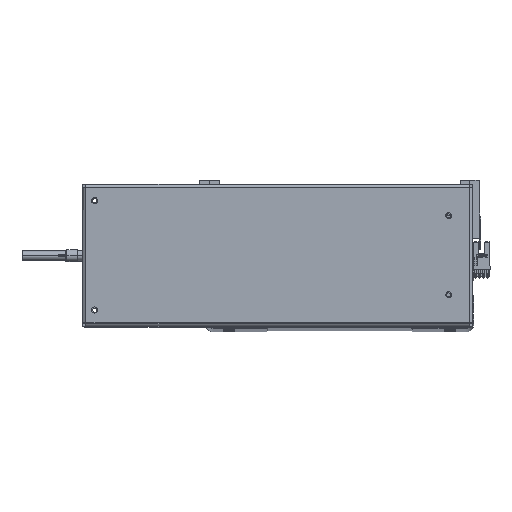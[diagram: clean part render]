
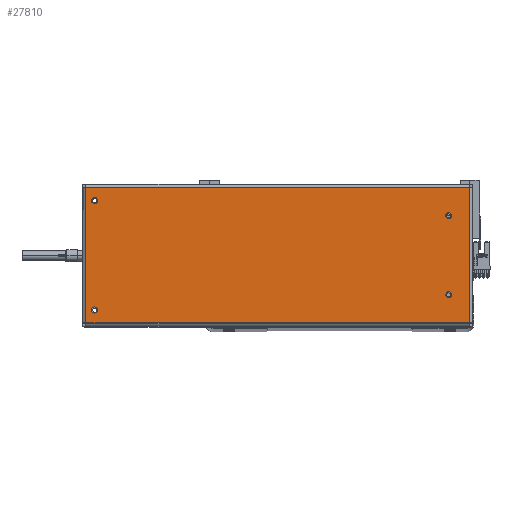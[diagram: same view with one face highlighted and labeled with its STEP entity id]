
A CAD part, top view. The second image highlights one B-rep face of the part: STEP entity #27810.
In plain terms, the highlighted planar face has unit normal (0, 0, 1).
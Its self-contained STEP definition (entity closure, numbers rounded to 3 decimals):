
#193 = VERTEX_POINT ( 'NONE', #32422 ) ;
#414 = EDGE_LOOP ( 'NONE', ( #36072, #34740 ) ) ;
#952 = CARTESIAN_POINT ( 'NONE',  ( -138., 32.5, 0. ) ) ;
#990 = ORIENTED_EDGE ( 'NONE', *, *, #28389, .F. ) ;
#1583 = DIRECTION ( 'NONE',  ( 0., 0., 1. ) ) ;
#1990 = AXIS2_PLACEMENT_3D ( 'NONE', #31674, #22230, #25608 ) ;
#2096 = EDGE_CURVE ( 'NONE', #24241, #16387, #38442, .T. ) ;
#2321 = LINE ( 'NONE', #5096, #9827 ) ;
#3168 = FACE_OUTER_BOUND ( 'NONE', #17974, .T. ) ;
#3536 = EDGE_LOOP ( 'NONE', ( #33889, #3919 ) ) ;
#3684 = DIRECTION ( 'NONE',  ( 0., 0., 1. ) ) ;
#3919 = ORIENTED_EDGE ( 'NONE', *, *, #28249, .F. ) ;
#3955 = VERTEX_POINT ( 'NONE', #27144 ) ;
#4523 = DIRECTION ( 'NONE',  ( 1., 0., 0. ) ) ;
#5096 = CARTESIAN_POINT ( 'NONE',  ( -157.6, 55.6, 0. ) ) ;
#5843 = VECTOR ( 'NONE', #16656, 1000. ) ;
#5875 = CARTESIAN_POINT ( 'NONE',  ( -138., -32.5, 0. ) ) ;
#6216 = EDGE_CURVE ( 'NONE', #19238, #193, #37953, .T. ) ;
#6271 = EDGE_CURVE ( 'NONE', #10355, #37986, #34816, .T. ) ;
#6510 = CARTESIAN_POINT ( 'NONE',  ( -157.7, -55.6, 0. ) ) ;
#6780 = AXIS2_PLACEMENT_3D ( 'NONE', #26599, #3684, #7325 ) ;
#7058 = ORIENTED_EDGE ( 'NONE', *, *, #38989, .F. ) ;
#7115 = AXIS2_PLACEMENT_3D ( 'NONE', #25947, #19063, #29217 ) ;
#7325 = DIRECTION ( 'NONE',  ( 1., 0., 0. ) ) ;
#7617 = EDGE_CURVE ( 'NONE', #38571, #3955, #21918, .T. ) ;
#8294 = EDGE_CURVE ( 'NONE', #25512, #23766, #39051, .T. ) ;
#8907 = EDGE_CURVE ( 'NONE', #15988, #38483, #12254, .T. ) ;
#9787 = AXIS2_PLACEMENT_3D ( 'NONE', #19681, #38893, #26449 ) ;
#9827 = VECTOR ( 'NONE', #11031, 1000. ) ;
#10229 = CARTESIAN_POINT ( 'NONE',  ( 150.5, 45., 0. ) ) ;
#10355 = VERTEX_POINT ( 'NONE', #952 ) ;
#10707 = FACE_BOUND ( 'NONE', #29589, .T. ) ;
#10876 = CARTESIAN_POINT ( 'NONE',  ( -157.6, 55.6, 0. ) ) ;
#11008 = ORIENTED_EDGE ( 'NONE', *, *, #24792, .T. ) ;
#11031 = DIRECTION ( 'NONE',  ( 0., -1., 0. ) ) ;
#11105 = CARTESIAN_POINT ( 'NONE',  ( 153., 45., 0. ) ) ;
#11705 = FACE_BOUND ( 'NONE', #18085, .T. ) ;
#11911 = AXIS2_PLACEMENT_3D ( 'NONE', #17322, #1583, #4523 ) ;
#12254 = LINE ( 'NONE', #32717, #17806 ) ;
#13863 = CARTESIAN_POINT ( 'NONE',  ( 153., -45., 0. ) ) ;
#13958 = ORIENTED_EDGE ( 'NONE', *, *, #8907, .T. ) ;
#15737 = FACE_BOUND ( 'NONE', #414, .T. ) ;
#15988 = VERTEX_POINT ( 'NONE', #31680 ) ;
#16247 = ORIENTED_EDGE ( 'NONE', *, *, #8294, .F. ) ;
#16387 = VERTEX_POINT ( 'NONE', #26980 ) ;
#16656 = DIRECTION ( 'NONE',  ( 1., 0., 0. ) ) ;
#16726 = CARTESIAN_POINT ( 'NONE',  ( 150.5, -45., 0. ) ) ;
#16733 = CIRCLE ( 'NONE', #26211, 2.5 ) ;
#16952 = DIRECTION ( 'NONE',  ( 1., 0., 0. ) ) ;
#17295 = DIRECTION ( 'NONE',  ( 0., 0., 1. ) ) ;
#17322 = CARTESIAN_POINT ( 'NONE',  ( -140.5, 32.5, 0. ) ) ;
#17806 = VECTOR ( 'NONE', #23582, 1000. ) ;
#17974 = EDGE_LOOP ( 'NONE', ( #11008, #31338, #32302, #13958 ) ) ;
#18085 = EDGE_LOOP ( 'NONE', ( #16247, #990 ) ) ;
#19063 = DIRECTION ( 'NONE',  ( 0., 0., 1. ) ) ;
#19098 = DIRECTION ( 'NONE',  ( 0., 0., 1. ) ) ;
#19238 = VERTEX_POINT ( 'NONE', #5875 ) ;
#19348 = ORIENTED_EDGE ( 'NONE', *, *, #6216, .F. ) ;
#19681 = CARTESIAN_POINT ( 'NONE',  ( 150.5, 45., 0. ) ) ;
#19748 = CIRCLE ( 'NONE', #32684, 2.5 ) ;
#20687 = CARTESIAN_POINT ( 'NONE',  ( -157.6, -55.6, 0. ) ) ;
#21598 = CARTESIAN_POINT ( 'NONE',  ( 148., 45., 0. ) ) ;
#21722 = CIRCLE ( 'NONE', #7115, 2.5 ) ;
#21918 = LINE ( 'NONE', #6510, #5843 ) ;
#22230 = DIRECTION ( 'NONE',  ( 0., 0., -1. ) ) ;
#23468 = DIRECTION ( 'NONE',  ( 0., 0., 1. ) ) ;
#23582 = DIRECTION ( 'NONE',  ( -1., 0., 0. ) ) ;
#23766 = VERTEX_POINT ( 'NONE', #21598 ) ;
#24241 = VERTEX_POINT ( 'NONE', #13863 ) ;
#24792 = EDGE_CURVE ( 'NONE', #38483, #38571, #2321, .T. ) ;
#25512 = VERTEX_POINT ( 'NONE', #11105 ) ;
#25608 = DIRECTION ( 'NONE',  ( -1., 0., 0. ) ) ;
#25707 = DIRECTION ( 'NONE',  ( 1., 0., 0. ) ) ;
#25947 = CARTESIAN_POINT ( 'NONE',  ( -140.5, -32.5, 0. ) ) ;
#26211 = AXIS2_PLACEMENT_3D ( 'NONE', #10229, #23468, #39011 ) ;
#26449 = DIRECTION ( 'NONE',  ( 1., 0., 0. ) ) ;
#26599 = CARTESIAN_POINT ( 'NONE',  ( -140.5, -32.5, 0. ) ) ;
#26980 = CARTESIAN_POINT ( 'NONE',  ( 148., -45., 0. ) ) ;
#27144 = CARTESIAN_POINT ( 'NONE',  ( 157.6, -55.6, 0. ) ) ;
#27785 = LINE ( 'NONE', #28724, #37865 ) ;
#27810 = ADVANCED_FACE ( 'NONE', ( #10707, #40496, #15737, #11705, #3168 ), #41451, .F. ) ;
#28249 = EDGE_CURVE ( 'NONE', #37986, #10355, #19748, .T. ) ;
#28389 = EDGE_CURVE ( 'NONE', #23766, #25512, #16733, .T. ) ;
#28724 = CARTESIAN_POINT ( 'NONE',  ( 157.6, -55.6, 0. ) ) ;
#28966 = CARTESIAN_POINT ( 'NONE',  ( -140.5, 32.5, 0. ) ) ;
#29217 = DIRECTION ( 'NONE',  ( 1., 0., 0. ) ) ;
#29589 = EDGE_LOOP ( 'NONE', ( #19348, #7058 ) ) ;
#29612 = CARTESIAN_POINT ( 'NONE',  ( 150.5, -45., 0. ) ) ;
#29747 = DIRECTION ( 'NONE',  ( 0., 0., 1. ) ) ;
#29871 = AXIS2_PLACEMENT_3D ( 'NONE', #16726, #17295, #32899 ) ;
#31338 = ORIENTED_EDGE ( 'NONE', *, *, #7617, .T. ) ;
#31674 = CARTESIAN_POINT ( 'NONE',  ( 157.7, 58.5, 0. ) ) ;
#31680 = CARTESIAN_POINT ( 'NONE',  ( 157.6, 55.6, 0. ) ) ;
#32302 = ORIENTED_EDGE ( 'NONE', *, *, #39345, .T. ) ;
#32422 = CARTESIAN_POINT ( 'NONE',  ( -143., -32.5, 0. ) ) ;
#32684 = AXIS2_PLACEMENT_3D ( 'NONE', #28966, #19098, #25707 ) ;
#32717 = CARTESIAN_POINT ( 'NONE',  ( 157.7, 55.6, 0. ) ) ;
#32899 = DIRECTION ( 'NONE',  ( 1., 0., 0. ) ) ;
#33084 = EDGE_CURVE ( 'NONE', #16387, #24241, #33579, .T. ) ;
#33579 = CIRCLE ( 'NONE', #34984, 2.5 ) ;
#33889 = ORIENTED_EDGE ( 'NONE', *, *, #6271, .F. ) ;
#34740 = ORIENTED_EDGE ( 'NONE', *, *, #33084, .F. ) ;
#34816 = CIRCLE ( 'NONE', #11911, 2.5 ) ;
#34984 = AXIS2_PLACEMENT_3D ( 'NONE', #29612, #29747, #16952 ) ;
#36072 = ORIENTED_EDGE ( 'NONE', *, *, #2096, .F. ) ;
#36998 = CARTESIAN_POINT ( 'NONE',  ( -143., 32.5, 0. ) ) ;
#37865 = VECTOR ( 'NONE', #38346, 1000. ) ;
#37953 = CIRCLE ( 'NONE', #6780, 2.5 ) ;
#37986 = VERTEX_POINT ( 'NONE', #36998 ) ;
#38346 = DIRECTION ( 'NONE',  ( 0., 1., 0. ) ) ;
#38442 = CIRCLE ( 'NONE', #29871, 2.5 ) ;
#38483 = VERTEX_POINT ( 'NONE', #10876 ) ;
#38571 = VERTEX_POINT ( 'NONE', #20687 ) ;
#38893 = DIRECTION ( 'NONE',  ( 0., 0., 1. ) ) ;
#38989 = EDGE_CURVE ( 'NONE', #193, #19238, #21722, .T. ) ;
#39011 = DIRECTION ( 'NONE',  ( 1., 0., 0. ) ) ;
#39051 = CIRCLE ( 'NONE', #9787, 2.5 ) ;
#39345 = EDGE_CURVE ( 'NONE', #3955, #15988, #27785, .T. ) ;
#40496 = FACE_BOUND ( 'NONE', #3536, .T. ) ;
#41451 = PLANE ( 'NONE',  #1990 ) ;
